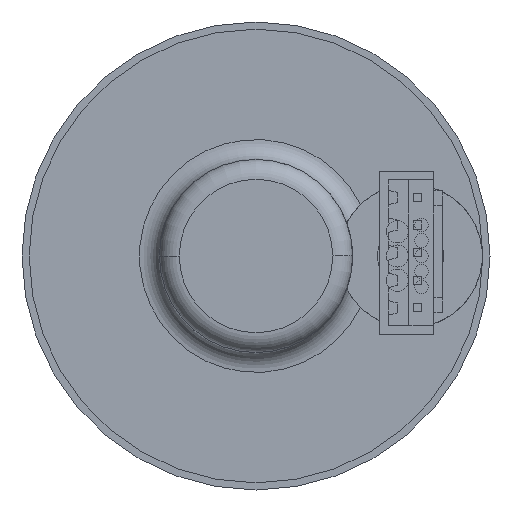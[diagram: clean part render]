
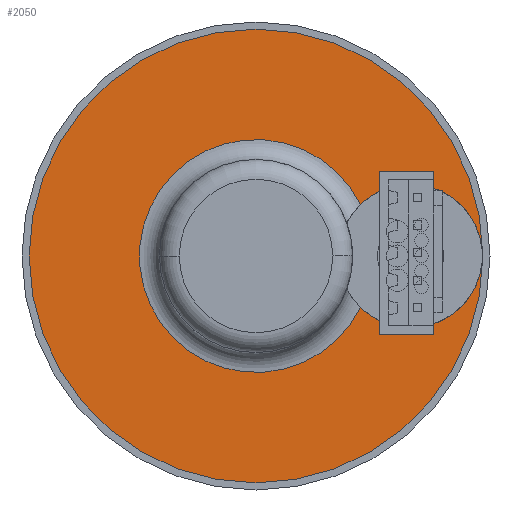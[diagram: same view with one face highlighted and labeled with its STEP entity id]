
A CAD part, front view. The second image highlights one B-rep face of the part: STEP entity #2050.
In plain terms, the highlighted planar face has unit normal (0, -1, 0).
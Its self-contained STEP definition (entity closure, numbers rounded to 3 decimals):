
#67=CARTESIAN_POINT('',(0.,1.4,0.));
#68=DIRECTION('',(0.,-1.,0.));
#69=DIRECTION('',(1.,0.,0.));
#70=AXIS2_PLACEMENT_3D('',#67,#68,#69);
#80=CARTESIAN_POINT('',(0.,1.4,0.));
#81=DIRECTION('',(0.,1.,0.));
#82=DIRECTION('',(1.,0.,0.));
#83=AXIS2_PLACEMENT_3D('',#80,#81,#82);
#175=CARTESIAN_POINT('',(14.,1.4,0.));
#176=DIRECTION('',(0.,1.,0.));
#177=DIRECTION('',(-0.698,0.,0.717));
#178=AXIS2_PLACEMENT_3D('',#175,#176,#177);
#193=CARTESIAN_POINT('',(9.466,1.4,-4.658));
#195=CARTESIAN_POINT('',(0.,1.4,0.));
#196=DIRECTION('',(0.,1.,0.));
#197=DIRECTION('',(0.897,0.,-0.441));
#198=AXIS2_PLACEMENT_3D('',#195,#196,#197);
#200=CARTESIAN_POINT('',(9.466,1.4,4.658));
#1522=CARTESIAN_POINT('',(20.55,1.4,0.));
#1524=VERTEX_POINT('',#1522);
#1538=CARTESIAN_POINT('',(-20.55,1.4,0.));
#1540=VERTEX_POINT('',#1538);
#1769=VERTEX_POINT('',#200);
#1770=VERTEX_POINT('',#193);
#2035=CARTESIAN_POINT('',(0.,1.4,0.));
#2036=DIRECTION('',(0.,-1.,0.));
#2037=DIRECTION('',(-1.,0.,0.));
#2038=AXIS2_PLACEMENT_3D('',#2035,#2036,#2037);
#2039=PLANE('',#2038);
#2040=ORIENTED_EDGE('',*,*,#2030,.T.);
#2041=ORIENTED_EDGE('',*,*,#2014,.F.);
#2042=EDGE_LOOP('',(#2040,#2041));
#2043=FACE_OUTER_BOUND('',#2042,.F.);
#2045=ORIENTED_EDGE('',*,*,#2044,.F.);
#2047=ORIENTED_EDGE('',*,*,#2046,.F.);
#2048=EDGE_LOOP('',(#2045,#2047));
#2049=FACE_BOUND('',#2048,.F.);
#2050=ADVANCED_FACE('',(#2043,#2049),#2039,.T.);
#71=CIRCLE('',#70,20.55);
#84=CIRCLE('',#83,20.55);
#179=CIRCLE('',#178,6.5);
#199=CIRCLE('',#198,10.55);
#2014=EDGE_CURVE('',#1524,#1540,#71,.T.);
#2030=EDGE_CURVE('',#1524,#1540,#84,.T.);
#2044=EDGE_CURVE('',#1769,#1770,#179,.T.);
#2046=EDGE_CURVE('',#1770,#1769,#199,.T.);
